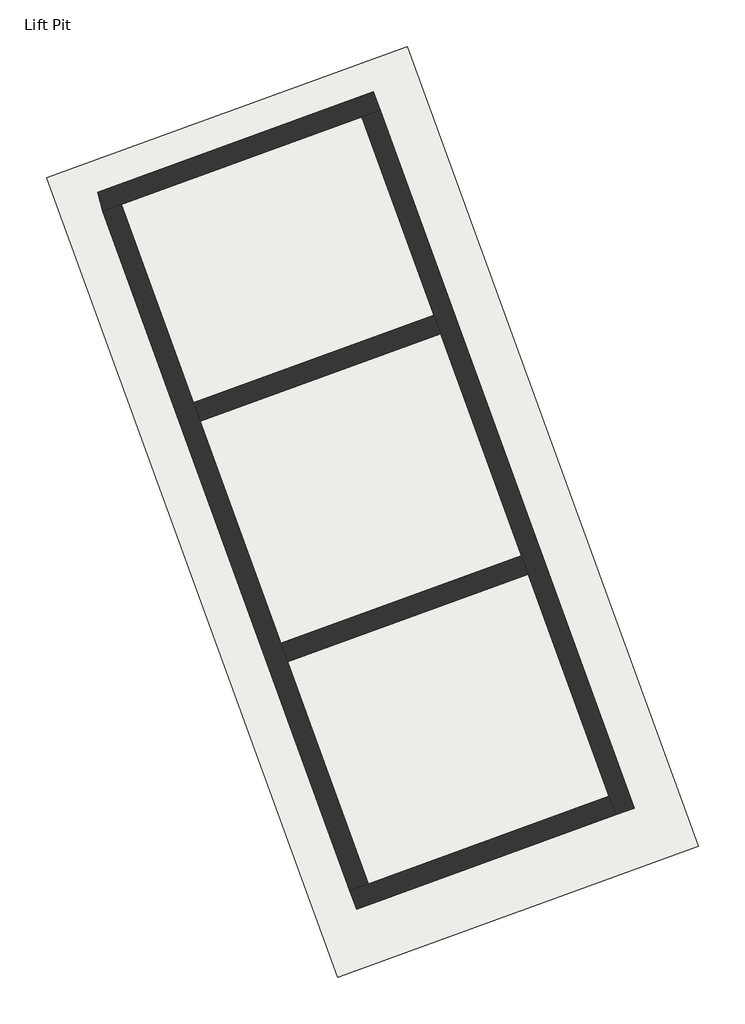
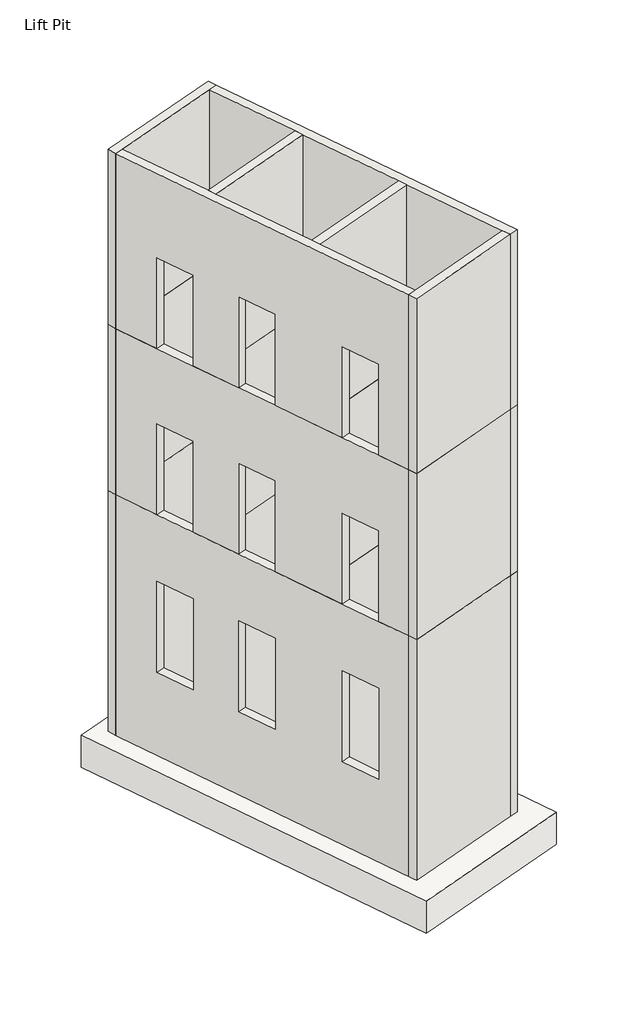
# One storey: 6 walls, 1 slab.
"""IFC4 building model written with IfcOpenShell, lengths in millimetres."""

from ifc_helpers import new_model, si_unit, frame, origin, place, context, project, spatial, polyline, outline, extrude, faceted_brep, element, save

model = new_model("IFC4")

# Units and contexts
model_context = context("Model", 3, world=origin())
ifc_project = project(units=[si_unit("LENGTHUNIT", "METRE", prefix="MILLI")], contexts=[model_context])

# Site, building, storey
site = spatial("IfcSite", under=ifc_project)
building = spatial("IfcBuilding", under=site)
storey = spatial("IfcBuildingStorey", under=building, Name="Lift Pit", Elevation=-1950.0)

# Slab
placement = place(None, origin())
element("IfcSlab", 1, ObjectType="RC SLAB 30\"", at=placement, inside=storey, context=model_context, shape_type="SweptSolid", body=[
    extrude(outline(polyline([(38299.7724557, 10272.5489477), (41257.1180287, 2147.3087635), (37592.3168076, 813.4302046), (34634.9712346, 8938.6703888), (38299.7724557, 10272.5489477)])), frame((0.0, 0.0, -2700.0), z_axis=(0.0, 0.0, 1.0), x_axis=(1.0, 0.0, 0.0)), (0.0, 0.0, 1.0), 750.0),
])

# Walls
element("IfcWall", 2, ObjectType="RC WALL 8\"", at=placement, inside=storey, context=model_context, shape_type="SolidModel", body=[
    faceted_brep([(38024.1761321, 9625.5613614, 7595.0), (35205.0982701, 8599.5009317, 7595.0), (35153.1367317, 8793.4240329, 7595.0), (37955.7721034, 9813.4998856, 7595.0), (38024.1761321, 9625.5613614, 11700.0), (37836.2376079, 9557.1573328, 11700.0), (35393.0367939, 8667.9049602, 11700.0), (35205.0982701, 8599.5009317, 11700.0), (37955.7721034, 9813.4998856, 11700.0), (35153.1367317, 8793.4240329, 11700.0)], [[[0, 1, 2, 3]], [[0, 4, 5, 6, 7, 1]], [[3, 8, 4, 0]], [[5, 4, 8, 9, 7, 6]], [[1, 7, 9, 2]], [[2, 9, 8, 3]]]),
    faceted_brep([(35205.0982701, 8599.5009317, 3695.0), (38024.1761321, 9625.5613614, 3695.0), (37955.7721034, 9813.4998856, 3695.0), (35153.1367317, 8793.4240329, 3695.0), (35205.0982701, 8599.5009317, -1950.0), (35393.0367939, 8667.9049602, -1950.0), (37836.2376079, 9557.1573328, -1950.0), (38024.1761321, 9625.5613614, -1950.0), (38024.1761321, 9625.5613614, -450.0), (35205.0982701, 8599.5009317, -450.0), (35153.1367317, 8793.4240329, -1950.0), (37955.7721034, 9813.4998856, -1950.0), (37955.7721034, 9813.4998856, -450.0), (35153.1367317, 8793.4240329, -450.0)], [[[0, 1, 2, 3]], [[4, 5, 6, 7, 8, 1, 0, 9]], [[5, 4, 10, 11, 7, 6]], [[8, 7, 11, 12, 2, 1]], [[4, 9, 0, 3, 13, 10]], [[10, 13, 3, 2, 12, 11]]]),
    extrude(outline(polyline([(38024.1761321, 9625.5613614), (35205.0982701, 8599.5009317), (35153.1367317, 8793.4240329), (37955.7721034, 9813.4998856), (38024.1761321, 9625.5613614)])), frame((0.0, 0.0, 3695.0), z_axis=(0.0, 0.0, 1.0), x_axis=(1.0, 0.0, 0.0)), (0.0, 0.0, 1.0), 3900.0),
])
element("IfcWall", 3, ObjectType="RC WALL 8\"", at=placement, inside=storey, context=model_context, shape_type="SolidModel", body=[
    faceted_brep([(40417.3610234, 2465.5790315, 7595.0), (37836.2376079, 9557.1573328, 7595.0), (38024.1761321, 9625.5613614, 7595.0), (40605.2995475, 2533.9830601, 7595.0), (40417.3610234, 2465.5790315, 11700.0), (40348.9569947, 2653.5175556, 11700.0), (39527.6685354, 4909.9890526, 11700.0), (39459.2645067, 5097.9275768, 11700.0), (38638.4161628, 7353.1898667, 11700.0), (38570.0121342, 7541.1283909, 11700.0), (37836.2376079, 9557.1573328, 11700.0), (40605.2995475, 2533.9830601, 11700.0), (38024.1761321, 9625.5613614, 11700.0)], [[[0, 1, 2, 3]], [[0, 4, 5, 6, 7, 8, 9, 10, 1]], [[4, 0, 3, 11]], [[5, 4, 11, 12, 10, 9, 8, 7, 6]], [[1, 10, 12, 2]], [[2, 12, 11, 3]]]),
    faceted_brep([(37836.2376079, 9557.1573328, 3695.0), (40417.3610234, 2465.5790315, 3695.0), (40605.2995475, 2533.9830601, 3695.0), (38024.1761321, 9625.5613614, 3695.0), (37836.2376079, 9557.1573328, -1950.0), (38570.0121342, 7541.1283909, -1950.0), (38638.4161628, 7353.1898667, -1950.0), (39459.2645067, 5097.9275768, -1950.0), (39527.6685354, 4909.9890526, -1950.0), (40348.9569947, 2653.5175556, -1950.0), (40417.3610234, 2465.5790315, -1950.0), (38024.1761321, 9625.5613614, -1950.0), (40605.2995475, 2533.9830601, -1950.0)], [[[0, 1, 2, 3]], [[4, 5, 6, 7, 8, 9, 10, 1, 0]], [[5, 4, 11, 12, 10, 9, 8, 7, 6]], [[1, 10, 12, 2]], [[4, 0, 3, 11]], [[11, 3, 2, 12]]]),
    extrude(outline(polyline([(40417.3610234, 2465.5790315), (37836.2376079, 9557.1573328), (38024.1761321, 9625.5613614), (40605.2995475, 2533.9830601), (40417.3610234, 2465.5790315)])), frame((0.0, 0.0, 3695.0), z_axis=(0.0, 0.0, 1.0), x_axis=(1.0, 0.0, 0.0)), (0.0, 0.0, 1.0), 3900.0),
])
element("IfcWall", 4, ObjectType="RC WALL 8\"", at=placement, inside=storey, context=model_context, shape_type="SolidModel", body=[
    faceted_brep([(37717.8176565, 1695.8611544, 7595.0), (40348.9569947, 2653.5175556, 7595.0), (40417.3610234, 2465.5790315, 7595.0), (37786.2216851, 1507.9226302, 7595.0), (37717.8176565, 1695.8611544, 11700.0), (37905.7561806, 1764.2651831, 11700.0), (40348.9569947, 2653.5175556, 11700.0), (37786.2216851, 1507.9226302, 11700.0), (40417.3610234, 2465.5790315, 11700.0)], [[[0, 1, 2, 3]], [[0, 4, 5, 6, 1]], [[4, 0, 3, 7]], [[5, 4, 7, 8, 6]], [[1, 6, 8, 2]], [[2, 8, 7, 3]]]),
    faceted_brep([(40348.9569947, 2653.5175556, 3695.0), (37717.8176565, 1695.8611544, 3695.0), (37786.2216851, 1507.9226302, 3695.0), (40417.3610234, 2465.5790315, 3695.0), (40348.9569947, 2653.5175556, -1950.0), (37905.7561806, 1764.2651831, -1950.0), (37717.8176565, 1695.8611544, -1950.0), (40417.3610234, 2465.5790315, -1950.0), (37786.2216851, 1507.9226302, -1950.0)], [[[0, 1, 2, 3]], [[4, 5, 6, 1, 0]], [[5, 4, 7, 8, 6]], [[1, 6, 8, 2]], [[4, 0, 3, 7]], [[7, 3, 2, 8]]]),
    extrude(outline(polyline([(37717.8176565, 1695.8611544), (40348.9569947, 2653.5175556), (40417.3610234, 2465.5790315), (37786.2216851, 1507.9226302), (37717.8176565, 1695.8611544)])), frame((0.0, 0.0, 3695.0), z_axis=(0.0, 0.0, 1.0), x_axis=(1.0, 0.0, 0.0)), (0.0, 0.0, 1.0), 3900.0),
])
element("IfcWall", 5, ObjectType="RC WALL 8\"", at=placement, inside=storey, context=model_context, shape_type="Brep", body=[
    faceted_brep([(37649.1749245, 2469.2163905, 7595.0), (37905.7561806, 1764.2651831, 7595.0), (37717.8176565, 1695.8611544, 7595.0), (37461.2364004, 2400.8123618, 7595.0), (36059.1597358, 6837.7472185, 7595.0), (36447.5578105, 5770.6322785, 7595.0), (36259.6192863, 5702.2282499, 7595.0), (35871.2212117, 6769.3431898, 7595.0), (35393.0367939, 8667.9049602, 7595.0), (35746.4165168, 7697.0021509, 7595.0), (35558.4779926, 7628.5981222, 7595.0), (35205.0982697, 8599.5009315, 7595.0), (36760.3010295, 4911.3773461, 7595.0), (37336.4317055, 3328.471323, 7595.0), (37148.4931813, 3260.0672943, 7595.0), (36572.3625053, 4842.9733174, 7595.0), (35393.0367939, 8667.9049602, 11700.0), (36126.8113201, 6651.8760183, 11700.0), (36195.2153487, 6463.9374941, 11700.0), (37016.0636927, 4208.6752042, 11700.0), (37084.4677213, 4020.73668, 11700.0), (37905.7561806, 1764.2651831, 11700.0), (37649.1749245, 2469.2163905, 9728.6), (37336.4317055, 3328.471323, 9728.6), (36760.3010295, 4911.3773461, 9728.6), (36447.5578105, 5770.6322785, 9728.6), (36059.1597358, 6837.7472185, 9728.6), (35746.4165168, 7697.0021509, 9728.6), (35205.0982697, 8599.5009315, 11700.0), (37717.8176565, 1695.8611544, 11700.0), (37461.2364004, 2400.8123618, 9728.6), (37148.4931813, 3260.0672943, 9728.6), (36572.3625053, 4842.9733174, 9728.6), (36259.6192863, 5702.2282499, 9728.6), (35871.2212117, 6769.3431898, 9728.6), (35558.4779926, 7628.5981222, 9728.6)], [[[0, 1, 2, 3]], [[4, 5, 6, 7]], [[8, 9, 10, 11]], [[12, 13, 14, 15]], [[8, 16, 17, 18, 19, 20, 21, 1, 0, 22, 23, 13, 12, 24, 25, 5, 4, 26, 27, 9]], [[11, 28, 16, 8]], [[17, 16, 28, 29, 21, 20, 19, 18]], [[1, 21, 29, 2]], [[23, 22, 30, 31]], [[13, 23, 31, 14]], [[22, 0, 3, 30]], [[25, 24, 32, 33]], [[5, 25, 33, 6]], [[24, 12, 15, 32]], [[27, 26, 34, 35]], [[9, 27, 35, 10]], [[26, 4, 7, 34]], [[2, 29, 28, 11, 10, 35, 34, 7, 6, 33, 32, 15, 14, 31, 30, 3]]]),
    faceted_brep([(37905.7561806, 1764.2651831, 3695.0), (37649.1749245, 2469.2163905, 3695.0), (37336.4317055, 3328.471323, 3695.0), (36760.3010295, 4911.3773461, 3695.0), (36447.5578105, 5770.6322785, 3695.0), (36059.1597358, 6837.7472185, 3695.0), (35746.4165168, 7697.0021509, 3695.0), (35393.0367939, 8667.9049602, 3695.0), (35205.0982697, 8599.5009315, 3695.0), (35558.4779926, 7628.5981222, 3695.0), (35871.2212117, 6769.3431898, 3695.0), (36259.6192863, 5702.2282499, 3695.0), (36572.3625053, 4842.9733174, 3695.0), (37148.4931813, 3260.0672943, 3695.0), (37461.2364004, 2400.8123618, 3695.0), (37717.8176565, 1695.8611544, 3695.0), (37905.7561806, 1764.2651831, -1950.0), (37084.4677213, 4020.73668, -1950.0), (37016.0636927, 4208.6752042, -1950.0), (36195.2153487, 6463.9374941, -1950.0), (36126.8113201, 6651.8760183, -1950.0), (35393.0367939, 8667.9049602, -1950.0), (35393.0367939, 8667.9049602, -450.0), (37905.7561806, 1764.2651831, -450.0), (36059.1597358, 6837.7472185, 2133.6), (35746.4165168, 7697.0021509, 2133.6), (35746.4165168, 7697.0021509, 0.0), (36059.1597358, 6837.7472185, 0.0), (36760.3010295, 4911.3773461, 2133.6), (36447.5578105, 5770.6322785, 2133.6), (36447.5578105, 5770.6322785, 0.0), (36760.3010295, 4911.3773461, 0.0), (37649.1749245, 2469.2163905, 2133.6), (37336.4317055, 3328.471323, 2133.6), (37336.4317055, 3328.471323, 0.0), (37649.1749245, 2469.2163905, 0.0), (35871.2212117, 6769.3431898, 2133.6), (35558.4779926, 7628.5981222, 2133.6), (35558.4779926, 7628.5981222, 0.0), (35871.2212117, 6769.3431898, 0.0), (36572.3625053, 4842.9733174, 2133.6), (36259.6192863, 5702.2282499, 2133.6), (36259.6192863, 5702.2282499, 0.0), (36572.3625053, 4842.9733174, 0.0), (37461.2364004, 2400.8123618, 2133.6), (37148.4931813, 3260.0672943, 2133.6), (37148.4931813, 3260.0672943, 0.0), (37461.2364004, 2400.8123618, 0.0), (37717.8176565, 1695.8611544, -1950.0), (35205.0982697, 8599.5009315, -1950.0), (35205.0982697, 8599.5009315, -450.0), (37717.8176565, 1695.8611544, -450.0)], [[[0, 1, 2, 3, 4, 5, 6, 7, 8, 9, 10, 11, 12, 13, 14, 15]], [[16, 17, 18, 19, 20, 21, 22, 7, 6, 5, 4, 3, 2, 1, 0, 23], [24, 25, 26, 27], [28, 29, 30, 31], [32, 33, 34, 35]], [[25, 24, 36, 37]], [[26, 25, 37, 38]], [[27, 26, 38, 39]], [[24, 27, 39, 36]], [[29, 28, 40, 41]], [[30, 29, 41, 42]], [[31, 30, 42, 43]], [[28, 31, 43, 40]], [[33, 32, 44, 45]], [[34, 33, 45, 46]], [[35, 34, 46, 47]], [[32, 35, 47, 44]], [[17, 16, 48, 49, 21, 20, 19, 18]], [[22, 21, 49, 50, 8, 7]], [[16, 23, 0, 15, 51, 48]], [[48, 51, 15, 14, 13, 12, 11, 10, 9, 8, 50, 49], [37, 36, 39, 38], [41, 40, 43, 42], [45, 44, 47, 46]]]),
    faceted_brep([(37905.7561806, 1764.2651831, 7595.0), (37649.1749245, 2469.2163905, 7595.0), (37336.4317055, 3328.471323, 7595.0), (36760.3010295, 4911.3773461, 7595.0), (36447.5578105, 5770.6322785, 7595.0), (36059.1597358, 6837.7472185, 7595.0), (35746.4165168, 7697.0021509, 7595.0), (35393.0367939, 8667.9049602, 7595.0), (35205.0982697, 8599.5009315, 7595.0), (35558.4779926, 7628.5981222, 7595.0), (35871.2212117, 6769.3431898, 7595.0), (36259.6192863, 5702.2282499, 7595.0), (36572.3625053, 4842.9733174, 7595.0), (37148.4931813, 3260.0672943, 7595.0), (37461.2364004, 2400.8123618, 7595.0), (37717.8176565, 1695.8611544, 7595.0), (37649.1749245, 2469.2163905, 3695.0), (37905.7561806, 1764.2651831, 3695.0), (37717.8176565, 1695.8611544, 3695.0), (37461.2364004, 2400.8123618, 3695.0), (36760.3010295, 4911.3773461, 3695.0), (37336.4317055, 3328.471323, 3695.0), (37148.4931813, 3260.0672943, 3695.0), (36572.3625053, 4842.9733174, 3695.0), (35393.0367939, 8667.9049602, 3695.0), (35746.4165168, 7697.0021509, 3695.0), (35558.4779926, 7628.5981222, 3695.0), (35205.0982697, 8599.5009315, 3695.0), (36059.1597358, 6837.7472185, 3695.0), (36447.5578105, 5770.6322785, 3695.0), (36259.6192863, 5702.2282499, 3695.0), (35871.2212117, 6769.3431898, 3695.0), (37649.1749245, 2469.2163905, 5828.6), (37336.4317055, 3328.471323, 5828.6), (36760.3010295, 4911.3773461, 5828.6), (36447.5578105, 5770.6322785, 5828.6), (36059.1597358, 6837.7472185, 5828.6), (35746.4165168, 7697.0021509, 5828.6), (35558.4779926, 7628.5981222, 5828.6), (35871.2212117, 6769.3431898, 5828.6), (36259.6192863, 5702.2282499, 5828.6), (36572.3625053, 4842.9733174, 5828.6), (37148.4931813, 3260.0672943, 5828.6), (37461.2364004, 2400.8123618, 5828.6)], [[[0, 1, 2, 3, 4, 5, 6, 7, 8, 9, 10, 11, 12, 13, 14, 15]], [[16, 17, 18, 19]], [[20, 21, 22, 23]], [[24, 25, 26, 27]], [[28, 29, 30, 31]], [[32, 33, 21, 20, 34, 35, 29, 28, 36, 37, 25, 24, 7, 6, 5, 4, 3, 2, 1, 0, 17, 16]], [[25, 37, 38, 26]], [[18, 15, 14, 13, 12, 11, 10, 9, 8, 27, 26, 38, 39, 31, 30, 40, 41, 23, 22, 42, 43, 19]], [[27, 8, 7, 24]], [[33, 32, 43, 42]], [[21, 33, 42, 22]], [[34, 20, 23, 41]], [[35, 34, 41, 40]], [[29, 35, 40, 30]], [[36, 28, 31, 39]], [[37, 36, 39, 38]], [[17, 0, 15, 18]], [[32, 16, 19, 43]]]),
])
element("IfcWall", 6, ObjectType="RC WALL 8\"", at=placement, inside=storey, context=model_context, shape_type="SweptSolid", body=[
    extrude(outline(polyline([(38638.4161628, 7353.1898667), (36195.2153487, 6463.9374941), (36126.8113201, 6651.8760183), (38570.0121342, 7541.1283909), (38638.4161628, 7353.1898667)])), frame((0.0, 0.0, 7595.0), z_axis=(0.0, 0.0, 1.0), x_axis=(1.0, 0.0, 0.0)), (0.0, 0.0, 1.0), 4105.0),
    extrude(outline(polyline([(38638.4161628, 7353.1898667), (36195.2153487, 6463.9374941), (36126.8113201, 6651.8760183), (38570.0121342, 7541.1283909), (38638.4161628, 7353.1898667)])), frame((0.0, 0.0, -1950.0), z_axis=(0.0, 0.0, 1.0), x_axis=(1.0, 0.0, 0.0)), (0.0, 0.0, 1.0), 5645.0),
    extrude(outline(polyline([(38638.4161628, 7353.1898667), (36195.2153487, 6463.9374941), (36126.8113201, 6651.8760183), (38570.0121342, 7541.1283909), (38638.4161628, 7353.1898667)])), frame((0.0, 0.0, 3695.0), z_axis=(0.0, 0.0, 1.0), x_axis=(1.0, 0.0, 0.0)), (0.0, 0.0, 1.0), 3900.0),
])
element("IfcWall", 7, ObjectType="RC WALL 8\"", at=placement, inside=storey, context=model_context, shape_type="SweptSolid", body=[
    extrude(outline(polyline([(39527.6685354, 4909.9890526), (37084.4677213, 4020.73668), (37016.0636927, 4208.6752042), (39459.2645067, 5097.9275768), (39527.6685354, 4909.9890526)])), frame((0.0, 0.0, 7595.0), z_axis=(0.0, 0.0, 1.0), x_axis=(1.0, 0.0, 0.0)), (0.0, 0.0, 1.0), 4105.0),
    extrude(outline(polyline([(39527.6685354, 4909.9890526), (37084.4677213, 4020.73668), (37016.0636927, 4208.6752042), (39459.2645067, 5097.9275768), (39527.6685354, 4909.9890526)])), frame((0.0, 0.0, -1950.0), z_axis=(0.0, 0.0, 1.0), x_axis=(1.0, 0.0, 0.0)), (0.0, 0.0, 1.0), 5645.0),
    extrude(outline(polyline([(39527.6685354, 4909.9890526), (37084.4677213, 4020.73668), (37016.0636927, 4208.6752042), (39459.2645067, 5097.9275768), (39527.6685354, 4909.9890526)])), frame((0.0, 0.0, 3695.0), z_axis=(0.0, 0.0, 1.0), x_axis=(1.0, 0.0, 0.0)), (0.0, 0.0, 1.0), 3900.0),
])

save(model, "model.ifc")
